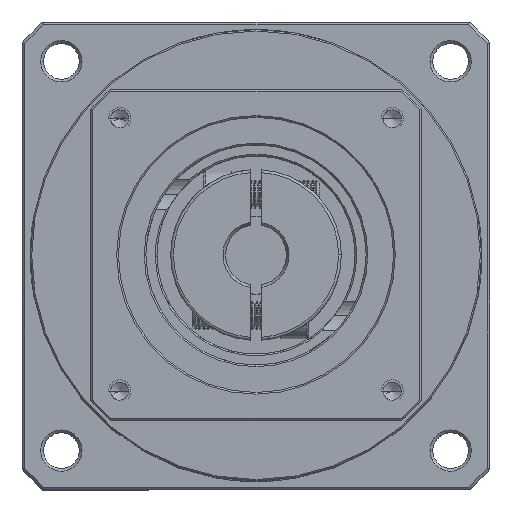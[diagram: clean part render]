
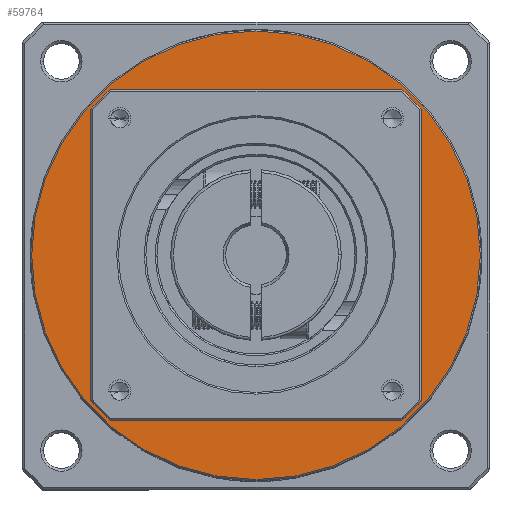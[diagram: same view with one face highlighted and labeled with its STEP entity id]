
A CAD part, top view. The second image highlights one B-rep face of the part: STEP entity #59764.
In plain terms, the highlighted planar face has unit normal (0, 0, 1).
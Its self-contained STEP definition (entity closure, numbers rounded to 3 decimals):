
#146 = CIRCLE ( 'NONE', #51158, 30. ) ;
#15008 = FACE_OUTER_BOUND ( 'NONE', #75586, .T. ) ;
#19303 = CARTESIAN_POINT ( 'NONE',  ( -76.645, 42.538, -56.391 ) ) ;
#20402 = CARTESIAN_POINT ( 'NONE',  ( -76.645, 42.538, -56.391 ) ) ;
#20454 = ORIENTED_EDGE ( 'NONE', *, *, #117964, .F. ) ;
#20848 = DIRECTION ( 'NONE',  ( 0., 0., 1. ) ) ;
#29176 = DIRECTION ( 'NONE',  ( 0., 0., 1. ) ) ;
#32649 = CARTESIAN_POINT ( 'NONE',  ( -106.645, 42.538, -56.391 ) ) ;
#41527 = CARTESIAN_POINT ( 'NONE',  ( -117.395, 42.538, -56.391 ) ) ;
#45929 = DIRECTION ( 'NONE',  ( 1., 0., 0. ) ) ;
#47630 = DIRECTION ( 'NONE',  ( 1., 0., 0. ) ) ;
#51158 = AXIS2_PLACEMENT_3D ( 'NONE', #20402, #20848, #88884 ) ;
#52440 = DIRECTION ( 'NONE',  ( 0., 0., 1. ) ) ;
#52933 = CARTESIAN_POINT ( 'NONE',  ( -76.645, 42.538, -56.391 ) ) ;
#59764 = ADVANCED_FACE ( 'NONE', ( #71583, #15008 ), #81528, .T. ) ;
#61645 = VERTEX_POINT ( 'NONE', #41527 ) ;
#66463 = CIRCLE ( 'NONE', #115952, 40.75 ) ;
#71583 = FACE_BOUND ( 'NONE', #88305, .T. ) ;
#72625 = DIRECTION ( 'NONE',  ( 0., 0., 1. ) ) ;
#75431 = VERTEX_POINT ( 'NONE', #101747 ) ;
#75586 = EDGE_LOOP ( 'NONE', ( #82354, #112484 ) ) ;
#76755 = EDGE_CURVE ( 'NONE', #75431, #61645, #105364, .T. ) ;
#78390 = AXIS2_PLACEMENT_3D ( 'NONE', #19303, #29176, #47630 ) ;
#78880 = EDGE_CURVE ( 'NONE', #61645, #75431, #66463, .T. ) ;
#80524 = AXIS2_PLACEMENT_3D ( 'NONE', #103226, #94675, #45929 ) ;
#81528 = PLANE ( 'NONE',  #105771 ) ;
#81957 = DIRECTION ( 'NONE',  ( 1., 0., 0. ) ) ;
#82354 = ORIENTED_EDGE ( 'NONE', *, *, #78880, .T. ) ;
#88305 = EDGE_LOOP ( 'NONE', ( #20454, #117576 ) ) ;
#88884 = DIRECTION ( 'NONE',  ( 1., 0., 0. ) ) ;
#94675 = DIRECTION ( 'NONE',  ( 0., 0., 1. ) ) ;
#97595 = VERTEX_POINT ( 'NONE', #110114 ) ;
#100426 = DIRECTION ( 'NONE',  ( 1., 0., 0. ) ) ;
#101747 = CARTESIAN_POINT ( 'NONE',  ( -35.895, 42.538, -56.391 ) ) ;
#102405 = EDGE_CURVE ( 'NONE', #97595, #114271, #117961, .T. ) ;
#103226 = CARTESIAN_POINT ( 'NONE',  ( -76.645, 42.538, -56.391 ) ) ;
#105364 = CIRCLE ( 'NONE', #80524, 40.75 ) ;
#105771 = AXIS2_PLACEMENT_3D ( 'NONE', #110543, #52440, #81957 ) ;
#110114 = CARTESIAN_POINT ( 'NONE',  ( -46.645, 42.538, -56.391 ) ) ;
#110543 = CARTESIAN_POINT ( 'NONE',  ( -76.645, 42.538, -56.391 ) ) ;
#112484 = ORIENTED_EDGE ( 'NONE', *, *, #76755, .T. ) ;
#114271 = VERTEX_POINT ( 'NONE', #32649 ) ;
#115952 = AXIS2_PLACEMENT_3D ( 'NONE', #52933, #72625, #100426 ) ;
#117576 = ORIENTED_EDGE ( 'NONE', *, *, #102405, .F. ) ;
#117961 = CIRCLE ( 'NONE', #78390, 30. ) ;
#117964 = EDGE_CURVE ( 'NONE', #114271, #97595, #146, .T. ) ;
